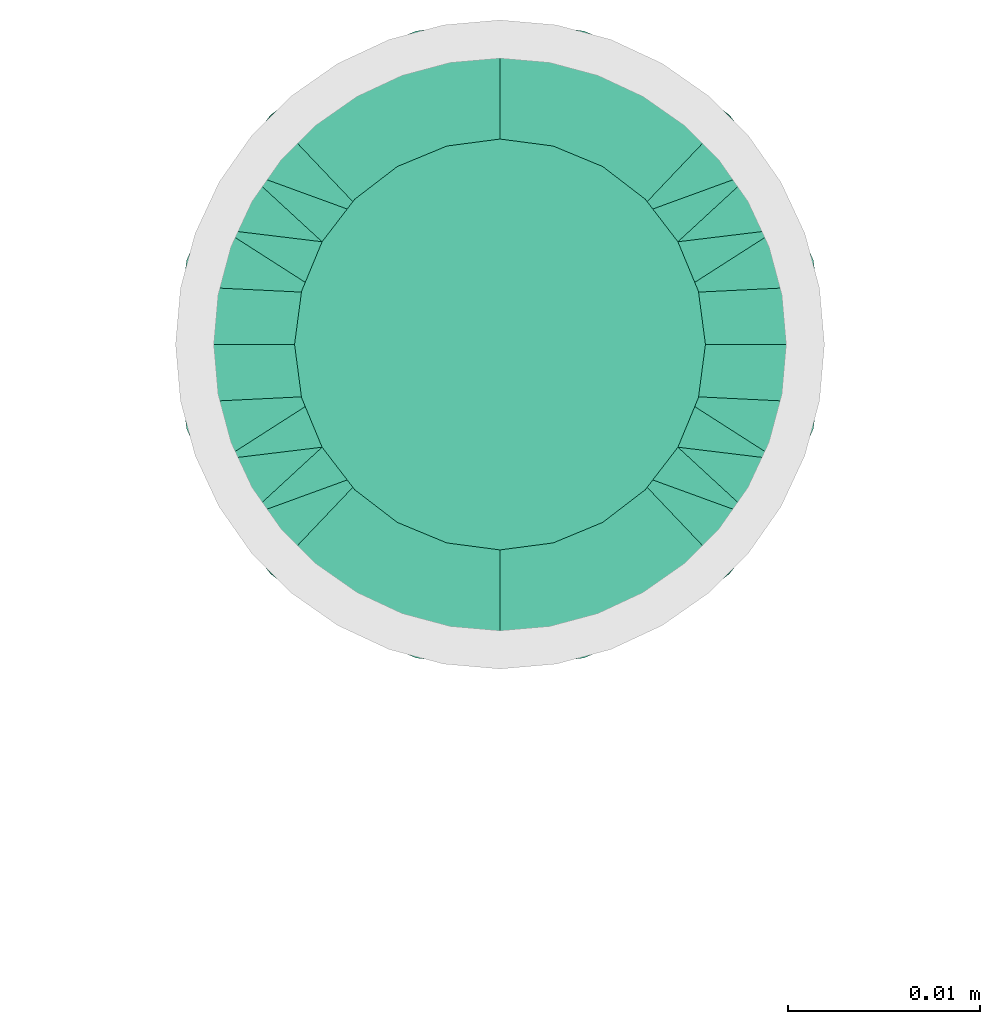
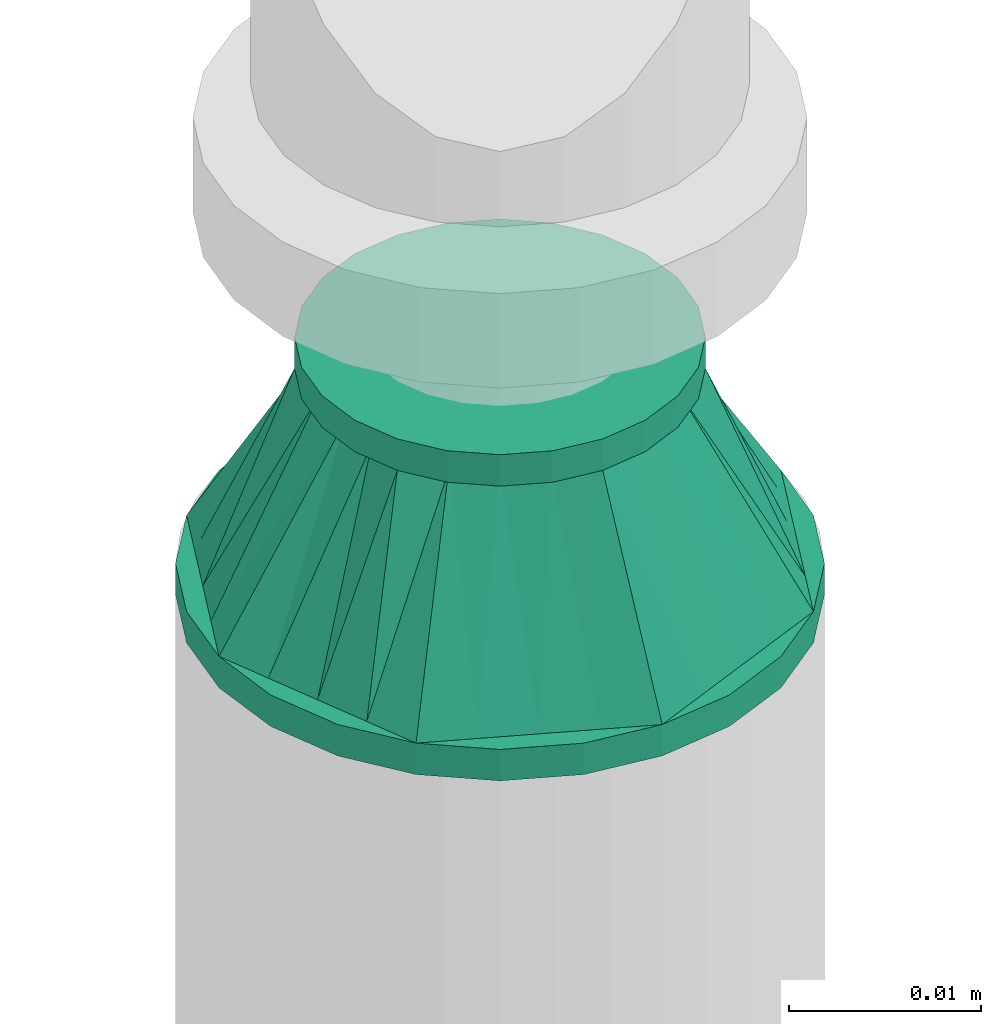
# One storey, part 29 of 44: 1 flow fitting.
"""IFC2X3 building model written with IfcOpenShell, lengths in millimetres."""

from ifc_helpers import new_model, entity, si_unit, converted_unit, derived_unit, direction, frame, origin_with_axes, place, context, subcontext, project, spatial, open_shell, surface_model, source, transform, mapped, type_object, element, save


model = new_model("IFC2X3")

# Units and contexts
model_context = context("Model", 3, precision=0.01, world=frame((0.0, 4.29681676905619e-09, 0.0)), true_north=direction((4.01073788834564e-13, 1.0)))
plan_context = context("Plan", 3, precision=0.01, world=frame((0.0, 4.29681676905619e-09, 0.0)), true_north=direction((4.01073788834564e-13, 1.0)))
body_context = subcontext(model_context, "Body", "Model", "MODEL_VIEW")
ifc_project = project(units=[converted_unit("PLANEANGLEUNIT", "DEGREE", entity("IfcPositiveLengthMeasure", 0.0174532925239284), si_unit("PLANEANGLEUNIT", "RADIAN"), dimensions=[0, 0, 0, 0, 0, 0, 0]), si_unit("AREAUNIT", "SQUARE_METRE"), si_unit("LENGTHUNIT", "METRE", prefix="MILLI"), si_unit("MASSUNIT", "GRAM", prefix="KILO"), si_unit("POWERUNIT", "WATT"), si_unit("PRESSUREUNIT", "PASCAL"), si_unit("FORCEUNIT", "NEWTON", prefix="KILO"), si_unit("ELECTRICVOLTAGEUNIT", "VOLT"), si_unit("ELECTRICCURRENTUNIT", "AMPERE"), si_unit("THERMODYNAMICTEMPERATUREUNIT", "DEGREE_CELSIUS"), si_unit("TIMEUNIT", "SECOND"), si_unit("VOLUMEUNIT", "CUBIC_METRE"), derived_unit("LINEARVELOCITYUNIT", [(si_unit("LENGTHUNIT", "METRE"), 1), (si_unit("TIMEUNIT", "SECOND"), -1)]), derived_unit("VOLUMETRICFLOWRATEUNIT", [(si_unit("VOLUMEUNIT", "CUBIC_METRE"), 1), (si_unit("TIMEUNIT", "SECOND"), -1)]), derived_unit("THERMALTRANSMITTANCEUNIT", [(si_unit("POWERUNIT", "WATT"), 1), (si_unit("THERMODYNAMICTEMPERATUREUNIT", "KELVIN"), -1), (si_unit("AREAUNIT", "SQUARE_METRE"), -1)]), derived_unit("SOUNDPRESSUREUNIT", [(si_unit("PRESSUREUNIT", "PASCAL"), 1)])], contexts=[model_context, plan_context])

# Site, building, storey
site_placement = place(None, frame((0.0, -4.29681676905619e-09, 0.0), z_axis=(0.0, 0.0, 1.0), x_axis=(1.0, 0.0, 0.0)))
site = spatial("IfcSite", under=ifc_project, at=site_placement, CompositionType="ELEMENT")
building_placement = place(site_placement, frame((0.0, 4.29681676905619e-09, 0.0), z_axis=(0.0, 0.0, 1.0), x_axis=(1.0, 0.0, 0.0)))
building = spatial("IfcBuilding", under=site, at=building_placement, Name="mc-building", CompositionType="ELEMENT")
storey_placement = place(building_placement, frame((0.0, 0.0, 207370.0), z_axis=(0.0, 0.0, 1.0), x_axis=(1.0, 0.0, 0.0)))
storey = spatial("IfcBuildingStorey", under=building, at=storey_placement, Name="Nivå E", CompositionType="ELEMENT", Elevation=207370.0)

# Flow fitting
pipe_fitting_type = type_object("IfcPipeFittingType", Name="magi_pipe_fe_reducer_centric_short_NOR", PredefinedType="TRANSITION")
shared_shape = source(origin_with_axes(), body_context, "Body", "SurfaceModel", [
    surface_model("IfcShellBasedSurfaceModel", [(14.4, 5.35, -9.26647), (14.4, 0.0, -10.7), (14.4, 2.76936, -10.33541), (14.4, 10.33541, -2.76936), (14.4, 7.56604, -7.56604), (14.4, -10.33541, -2.76936), (14.4, 9.26647, -5.35), (14.4, 0.0, 10.7), (14.4, -5.35, -9.26647), (14.4, -2.76936, -10.33541), (14.4, -7.56604, -7.56604), (14.4, -9.26647, -5.35), (14.4, 10.7, 0.0), (14.4, 10.33541, 2.76936), (14.4, 9.26647, 5.35), (14.4, 7.56604, 7.56604), (14.4, 2.76936, 10.33541), (14.4, 5.35, 9.26647), (14.4, -10.33541, 2.76936), (14.4, -7.56604, 7.56604), (14.4, -9.26647, 5.35), (14.4, -10.7, 0.0), (14.4, -2.76936, 10.33541), (14.4, -5.35, 9.26647), (12.4, 2.76936, 10.33541), (12.4, -10.33541, -2.76936), (12.4, 0.0, 10.7), (12.4, 5.35, 9.26647), (12.4, 7.56604, 7.56604), (12.4, 9.26647, 5.35), (12.4, 10.33541, 2.76936), (12.4, -10.33541, 2.76936), (12.4, -2.76936, 10.33541), (12.4, -7.56604, 7.56604), (12.4, -5.35, 9.26647), (12.4, -9.26647, 5.35), (12.4, -10.7, 0.0), (12.4, 10.33541, -2.76936), (12.4, 5.35, -9.26647), (12.4, 9.26647, -5.35), (12.4, 7.56604, -7.56604), (12.4, 2.76936, -10.33541), (12.4, -9.26647, -5.35), (12.4, -5.35, -9.26647), (12.4, -7.56604, -7.56604), (12.4, 0.0, -10.7), (12.4, -2.76936, -10.33541), (12.4, 10.7, 0.0), (-2.0, 11.9501, 11.9501), (-2.0, 0.0, 16.9), (-2.0, 4.37404, 16.32415), (-2.0, 8.45, 14.63583), (-2.0, 14.63583, 8.45), (-2.0, 16.32415, 4.37404), (-2.0, -16.32415, 4.37404), (-2.0, -8.45, 14.63583), (-2.0, -14.63583, 8.45), (-2.0, -11.9501, 11.9501), (-2.0, -4.37404, 16.32415), (-2.0, -16.32415, -4.37404), (-2.0, -16.9, 0.0), (-2.0, -8.45, -14.63583), (-2.0, 16.32415, -4.37404), (-2.0, 11.9501, -11.9501), (-2.0, 14.63583, -8.45), (-2.0, 8.45, -14.63583), (-2.0, 4.37404, -16.32415), (-2.0, 0.0, -16.9), (-2.0, -11.9501, -11.9501), (-2.0, -14.63583, -8.45), (-2.0, -4.37404, -16.32415), (-2.0, 16.9, 0.0), (0.0, 4.37404, -16.32415), (0.0, 8.45, -14.63583), (0.0, 11.9501, -11.9501), (0.0, 0.0, -16.9), (0.0, 16.32415, -4.37404), (0.0, 16.32415, 4.37404), (0.0, 14.63583, -8.45), (0.0, -8.45, -14.63583), (0.0, -4.37404, -16.32415), (0.0, -11.9501, -11.9501), (0.0, -16.32415, -4.37404), (0.0, -14.63583, -8.45), (0.0, -16.32415, 4.37404), (0.0, 16.9, 0.0), (0.0, 14.63583, 8.45), (0.0, 11.9501, 11.9501), (0.0, 4.37404, 16.32415), (0.0, 8.45, 14.63583), (0.0, 0.0, 16.9), (0.0, -14.63583, 8.45), (0.0, -16.9, 0.0), (0.0, -8.45, 14.63583), (0.0, -11.9501, 11.9501), (0.0, -4.37404, 16.32415), (12.4, 9.3625, -2.31662), (0.0, 14.42505, -5.97505), (0.0, 15.66253, -2.98753), (12.4, -6.6875, -6.94985), (0.0, -13.18758, -8.96258), (0.0, 2.98753, -15.66253), (12.4, 0.0, -9.26647), (12.4, 6.6875, -6.94985), (0.0, 8.96258, -13.18758), (12.4, -9.3625, -2.31662), (0.0, -15.66253, -2.98753), (0.0, -14.42505, -5.97505), (0.0, 5.97505, -14.42505), (0.0, -2.98753, -15.66253), (0.0, -8.96258, -13.18758), (0.0, 13.18758, -8.96258), (12.4, 8.025, -4.63324), (12.4, -2.675, -9.26647), (12.4, 2.675, -9.26647), (0.0, -5.97505, -14.42505), (12.4, -8.025, -4.63324), (12.4, -9.3625, 2.31662), (0.0, -14.42505, 5.97505), (0.0, -15.66253, 2.98753), (12.4, 6.6875, 6.94985), (0.0, 13.18758, 8.96258), (0.0, -2.98753, 15.66253), (12.4, 0.0, 9.26647), (12.4, -6.6875, 6.94985), (0.0, -8.96258, 13.18758), (12.4, 9.3625, 2.31662), (0.0, 15.66253, 2.98753), (0.0, 14.42505, 5.97505), (0.0, -5.97505, 14.42505), (0.0, 2.98753, 15.66253), (0.0, 8.96258, 13.18758), (0.0, -13.18758, 8.96258), (12.4, -8.025, 4.63324), (12.4, 2.675, 9.26647), (12.4, -2.675, 9.26647), (0.0, 5.97505, 14.42505), (12.4, 8.025, 4.63324)], [open_shell([[[0, 1, 2]], [[3, 0, 4]], [[5, 0, 3]], [[3, 4, 6]], [[7, 5, 3]], [[1, 8, 9]], [[1, 0, 8]], [[10, 5, 11]], [[5, 10, 8]], [[0, 5, 8]], [[3, 12, 13]], [[13, 14, 15]], [[13, 15, 16]], [[7, 3, 16]], [[16, 15, 17]], [[7, 18, 5]], [[18, 19, 20]], [[21, 5, 18]], [[19, 22, 23]], [[22, 19, 18]], [[7, 22, 18]], [[13, 16, 3]], [[24, 25, 26]], [[27, 25, 24]], [[28, 29, 30]], [[28, 25, 27]], [[31, 26, 25]], [[32, 33, 34]], [[33, 32, 31]], [[33, 31, 35]], [[32, 26, 31]], [[31, 25, 36]], [[30, 37, 28]], [[25, 28, 37]], [[38, 37, 39]], [[37, 38, 25]], [[38, 39, 40]], [[41, 25, 38]], [[42, 43, 44]], [[43, 42, 25]], [[43, 45, 46]], [[43, 25, 41]], [[41, 45, 43]], [[37, 30, 47]], [[25, 5, 36]], [[42, 11, 25]], [[8, 44, 43]], [[42, 44, 10]], [[9, 43, 46]], [[25, 11, 5]], [[5, 21, 36]], [[9, 8, 43]], [[10, 44, 8]], [[10, 11, 42]], [[1, 9, 46]], [[46, 45, 1]], [[41, 2, 45]], [[38, 0, 41]], [[6, 40, 39]], [[38, 40, 4]], [[3, 39, 37]], [[38, 4, 0]], [[0, 2, 41]], [[12, 3, 37]], [[6, 39, 3]], [[6, 4, 40]], [[47, 12, 37]], [[45, 2, 1]], [[30, 13, 47]], [[29, 14, 30]], [[17, 28, 27]], [[29, 28, 15]], [[16, 27, 24]], [[30, 14, 13]], [[13, 12, 47]], [[16, 17, 27]], [[15, 28, 17]], [[15, 14, 29]], [[7, 16, 24]], [[24, 26, 7]], [[32, 22, 26]], [[34, 23, 32]], [[20, 33, 35]], [[34, 33, 19]], [[18, 35, 31]], [[34, 19, 23]], [[23, 22, 32]], [[21, 18, 31]], [[20, 35, 18]], [[20, 19, 33]], [[36, 21, 31]], [[26, 22, 7]], [[48, 49, 50]], [[48, 50, 51]], [[48, 52, 53]], [[48, 53, 49]], [[49, 53, 54]], [[55, 56, 57]], [[55, 58, 49]], [[56, 55, 49]], [[49, 54, 56]], [[54, 59, 60]], [[54, 53, 61]], [[53, 62, 63]], [[63, 62, 64]], [[63, 65, 66]], [[61, 53, 63]], [[67, 63, 66]], [[59, 68, 69]], [[68, 59, 61]], [[61, 67, 70]], [[59, 54, 61]], [[63, 67, 61]], [[53, 71, 62]], [[72, 73, 74]], [[75, 72, 74]], [[74, 76, 77]], [[76, 74, 78]], [[74, 77, 79]], [[75, 79, 80]], [[75, 74, 79]], [[81, 82, 83]], [[82, 81, 79]], [[79, 84, 82]], [[77, 76, 85]], [[77, 86, 87]], [[77, 87, 88]], [[88, 84, 79]], [[88, 87, 89]], [[84, 88, 90]], [[90, 91, 84]], [[92, 82, 84]], [[91, 93, 94]], [[91, 90, 93]], [[93, 90, 95]], [[79, 77, 88]], [[59, 82, 60]], [[69, 83, 59]], [[79, 68, 61]], [[69, 68, 81]], [[80, 61, 70]], [[59, 83, 82]], [[82, 92, 60]], [[80, 79, 61]], [[81, 68, 79]], [[81, 83, 69]], [[75, 80, 70]], [[70, 67, 75]], [[66, 72, 67]], [[65, 73, 66]], [[78, 63, 64]], [[65, 63, 74]], [[76, 64, 62]], [[65, 74, 73]], [[73, 72, 66]], [[85, 76, 62]], [[78, 64, 76]], [[78, 74, 63]], [[71, 85, 62]], [[67, 72, 75]], [[53, 77, 71]], [[52, 86, 53]], [[89, 48, 51]], [[52, 48, 87]], [[88, 51, 50]], [[53, 86, 77]], [[77, 85, 71]], [[88, 89, 51]], [[87, 48, 89]], [[87, 86, 52]], [[90, 88, 50]], [[50, 49, 90]], [[58, 95, 49]], [[55, 93, 58]], [[91, 57, 56]], [[55, 57, 94]], [[84, 56, 54]], [[55, 94, 93]], [[93, 95, 58]], [[92, 84, 54]], [[91, 56, 84]], [[91, 94, 57]], [[60, 92, 54]], [[49, 95, 90]], [[27, 34, 47]], [[47, 34, 43]], [[43, 38, 47]], [[43, 34, 36]], [[90, 87, 94]], [[92, 94, 87]], [[87, 74, 92]], [[75, 92, 74]], [[81, 92, 75]], [[74, 87, 85]], [[96, 97, 98]], [[81, 99, 100]], [[101, 102, 75]], [[98, 85, 47]], [[74, 103, 104]], [[104, 103, 38]], [[105, 106, 107]], [[38, 108, 104]], [[102, 109, 75]], [[110, 99, 81]], [[47, 96, 98]], [[103, 111, 112]], [[109, 102, 113]], [[36, 92, 106]], [[102, 101, 114]], [[110, 115, 43]], [[96, 112, 97]], [[107, 116, 105]], [[36, 106, 105]], [[113, 115, 109]], [[43, 115, 113]], [[116, 107, 100]], [[108, 38, 114]], [[111, 103, 74]], [[111, 97, 112]], [[99, 110, 43]], [[116, 100, 99]], [[101, 108, 114]], [[117, 118, 119]], [[87, 120, 121]], [[122, 123, 90]], [[119, 92, 36]], [[94, 124, 125]], [[125, 124, 34]], [[126, 127, 128]], [[34, 129, 125]], [[123, 130, 90]], [[131, 120, 87]], [[36, 117, 119]], [[124, 132, 133]], [[130, 123, 134]], [[47, 85, 127]], [[123, 122, 135]], [[131, 136, 27]], [[117, 133, 118]], [[128, 137, 126]], [[47, 127, 126]], [[134, 136, 130]], [[27, 136, 134]], [[137, 128, 121]], [[129, 34, 135]], [[132, 124, 94]], [[132, 118, 133]], [[120, 131, 27]], [[137, 121, 120]], [[122, 129, 135]]])]),
])
flow_fitting_placement = place(storey_placement, frame((527500.0, 459009.83177, 3027.60555000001), z_axis=(1.0, 0.0, 0.0), x_axis=(0.0, 0.0, 1.0)))
element("IfcFlowFitting", 1, at=flow_fitting_placement, inside=storey, type_object=pipe_fitting_type, Name="magi_pipe_fe_reducer_centric_short_NOR", context=body_context, shape_type="MappedRepresentation", body=[
    mapped(shared_shape, transform((0.0, 0.0, 0.0), scale=1.0)),
])

save(model, "model.ifc")
